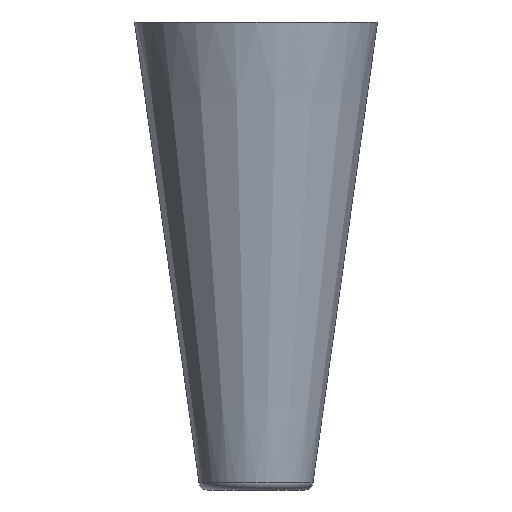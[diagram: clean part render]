
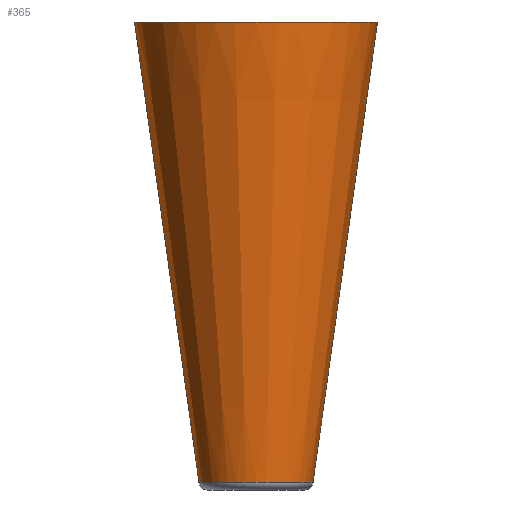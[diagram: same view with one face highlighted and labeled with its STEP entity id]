
A CAD part, front view. The second image highlights one B-rep face of the part: STEP entity #365.
In plain terms, the highlighted conical face has half-angle 7.97 degrees and reference radius 12.916 mm.
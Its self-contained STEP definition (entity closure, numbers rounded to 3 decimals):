
#1 = DIRECTION ( 'NONE',  ( 0.139, 0., 0.99 ) ) ;
#9 = ORIENTED_EDGE ( 'NONE', *, *, #337, .T. ) ;
#35 = CARTESIAN_POINT ( 'NONE',  ( 0., 0., -104.277 ) ) ;
#60 = AXIS2_PLACEMENT_3D ( 'NONE', #69, #439, #301 ) ;
#62 = AXIS2_PLACEMENT_3D ( 'NONE', #35, #526, #436 ) ;
#69 = CARTESIAN_POINT ( 'NONE',  ( 0., 0., -104.277 ) ) ;
#88 = CARTESIAN_POINT ( 'NONE',  ( 12.916, 0., -104.277 ) ) ;
#91 = CARTESIAN_POINT ( 'NONE',  ( 12.916, 0., -104.277 ) ) ;
#133 = ORIENTED_EDGE ( 'NONE', *, *, #523, .T. ) ;
#137 = LINE ( 'NONE', #409, #431 ) ;
#145 = CIRCLE ( 'NONE', #342, 27.515 ) ;
#148 = VECTOR ( 'NONE', #1, 1000. ) ;
#158 = CIRCLE ( 'NONE', #60, 12.916 ) ;
#166 = VERTEX_POINT ( 'NONE', #411 ) ;
#184 = EDGE_CURVE ( 'NONE', #194, #166, #145, .T. ) ;
#191 = DIRECTION ( 'NONE',  ( 0., 0., 1. ) ) ;
#194 = VERTEX_POINT ( 'NONE', #374 ) ;
#218 = VERTEX_POINT ( 'NONE', #364 ) ;
#228 = EDGE_LOOP ( 'NONE', ( #241, #9, #133, #462 ) ) ;
#229 = DIRECTION ( 'NONE',  ( -0.139, 0., 0.99 ) ) ;
#241 = ORIENTED_EDGE ( 'NONE', *, *, #527, .F. ) ;
#301 = DIRECTION ( 'NONE',  ( 1., 0., 0. ) ) ;
#325 = DIRECTION ( 'NONE',  ( 1., 0., 0. ) ) ;
#337 = EDGE_CURVE ( 'NONE', #218, #560, #158, .T. ) ;
#342 = AXIS2_PLACEMENT_3D ( 'NONE', #371, #191, #325 ) ;
#364 = CARTESIAN_POINT ( 'NONE',  ( -12.916, 0., -104.277 ) ) ;
#365 = ADVANCED_FACE ( 'NONE', ( #401 ), #477, .T. ) ;
#371 = CARTESIAN_POINT ( 'NONE',  ( 0., 0., 0. ) ) ;
#374 = CARTESIAN_POINT ( 'NONE',  ( -27.515, 0., 0. ) ) ;
#401 = FACE_OUTER_BOUND ( 'NONE', #228, .T. ) ;
#409 = CARTESIAN_POINT ( 'NONE',  ( -12.916, 0., -104.277 ) ) ;
#411 = CARTESIAN_POINT ( 'NONE',  ( 27.515, 0., 0. ) ) ;
#431 = VECTOR ( 'NONE', #229, 1000. ) ;
#436 = DIRECTION ( 'NONE',  ( 1., 0., 0. ) ) ;
#439 = DIRECTION ( 'NONE',  ( 0., 0., 1. ) ) ;
#462 = ORIENTED_EDGE ( 'NONE', *, *, #184, .F. ) ;
#477 = CONICAL_SURFACE ( 'NONE', #62, 12.916, 0.139 ) ;
#523 = EDGE_CURVE ( 'NONE', #560, #166, #545, .T. ) ;
#526 = DIRECTION ( 'NONE',  ( 0., 0., 1. ) ) ;
#527 = EDGE_CURVE ( 'NONE', #218, #194, #137, .T. ) ;
#545 = LINE ( 'NONE', #88, #148 ) ;
#560 = VERTEX_POINT ( 'NONE', #91 ) ;
